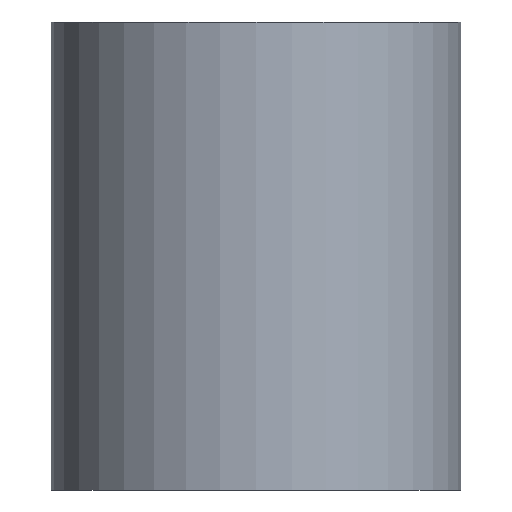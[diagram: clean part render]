
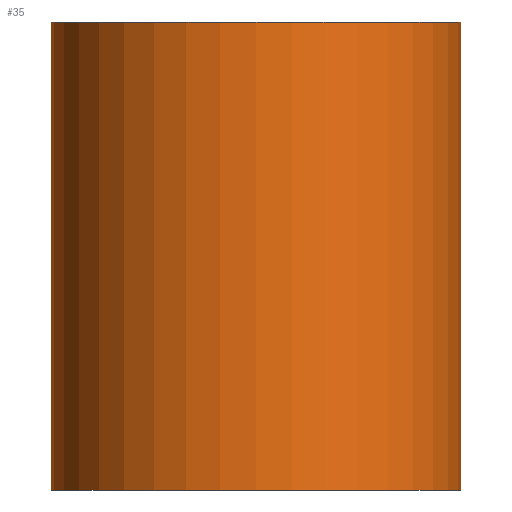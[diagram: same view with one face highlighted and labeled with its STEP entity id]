
A CAD part, front view. The second image highlights one B-rep face of the part: STEP entity #35.
In plain terms, the highlighted cylindrical face has radius 1.75 mm (diameter 3.5 mm), a full revolution.
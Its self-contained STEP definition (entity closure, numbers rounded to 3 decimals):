
#35 = ADVANCED_FACE('',(#36),#49,.T.);
#36 = FACE_BOUND('',#37,.T.);
#37 = EDGE_LOOP('',(#38,#72,#95,#122));
#38 = ORIENTED_EDGE('',*,*,#39,.F.);
#39 = EDGE_CURVE('',#40,#40,#42,.T.);
#40 = VERTEX_POINT('',#41);
#41 = CARTESIAN_POINT('',(1.75,0.,2.));
#42 = SURFACE_CURVE('',#43,(#48,#60),.PCURVE_S1.);
#43 = CIRCLE('',#44,1.75);
#44 = AXIS2_PLACEMENT_3D('',#45,#46,#47);
#45 = CARTESIAN_POINT('',(0.,0.,2.));
#46 = DIRECTION('',(0.,0.,1.));
#47 = DIRECTION('',(1.,0.,-0.));
#48 = PCURVE('',#49,#54);
#49 = CYLINDRICAL_SURFACE('',#50,1.75);
#50 = AXIS2_PLACEMENT_3D('',#51,#52,#53);
#51 = CARTESIAN_POINT('',(0.,0.,-2.));
#52 = DIRECTION('',(0.,0.,1.));
#53 = DIRECTION('',(1.,0.,-0.));
#54 = DEFINITIONAL_REPRESENTATION('',(#55),#59);
#55 = LINE('',#56,#57);
#56 = CARTESIAN_POINT('',(0.,4.));
#57 = VECTOR('',#58,1.);
#58 = DIRECTION('',(1.,0.));
#59 = ( GEOMETRIC_REPRESENTATION_CONTEXT(2) 
PARAMETRIC_REPRESENTATION_CONTEXT() REPRESENTATION_CONTEXT('2D SPACE',''
  ) );
#60 = PCURVE('',#61,#66);
#61 = PLANE('',#62);
#62 = AXIS2_PLACEMENT_3D('',#63,#64,#65);
#63 = CARTESIAN_POINT('',(0.,0.,2.));
#64 = DIRECTION('',(0.,0.,1.));
#65 = DIRECTION('',(1.,0.,-0.));
#66 = DEFINITIONAL_REPRESENTATION('',(#67),#71);
#67 = CIRCLE('',#68,1.75);
#68 = AXIS2_PLACEMENT_2D('',#69,#70);
#69 = CARTESIAN_POINT('',(0.,0.));
#70 = DIRECTION('',(1.,0.));
#71 = ( GEOMETRIC_REPRESENTATION_CONTEXT(2) 
PARAMETRIC_REPRESENTATION_CONTEXT() REPRESENTATION_CONTEXT('2D SPACE',''
  ) );
#72 = ORIENTED_EDGE('',*,*,#73,.F.);
#73 = EDGE_CURVE('',#74,#40,#76,.T.);
#74 = VERTEX_POINT('',#75);
#75 = CARTESIAN_POINT('',(1.75,0.,-2.));
#76 = SEAM_CURVE('',#77,(#81,#88),.PCURVE_S1.);
#77 = LINE('',#78,#79);
#78 = CARTESIAN_POINT('',(1.75,0.,-2.));
#79 = VECTOR('',#80,1.);
#80 = DIRECTION('',(0.,0.,1.));
#81 = PCURVE('',#49,#82);
#82 = DEFINITIONAL_REPRESENTATION('',(#83),#87);
#83 = LINE('',#84,#85);
#84 = CARTESIAN_POINT('',(6.283,-0.));
#85 = VECTOR('',#86,1.);
#86 = DIRECTION('',(0.,1.));
#87 = ( GEOMETRIC_REPRESENTATION_CONTEXT(2) 
PARAMETRIC_REPRESENTATION_CONTEXT() REPRESENTATION_CONTEXT('2D SPACE',''
  ) );
#88 = PCURVE('',#49,#89);
#89 = DEFINITIONAL_REPRESENTATION('',(#90),#94);
#90 = LINE('',#91,#92);
#91 = CARTESIAN_POINT('',(0.,-0.));
#92 = VECTOR('',#93,1.);
#93 = DIRECTION('',(0.,1.));
#94 = ( GEOMETRIC_REPRESENTATION_CONTEXT(2) 
PARAMETRIC_REPRESENTATION_CONTEXT() REPRESENTATION_CONTEXT('2D SPACE',''
  ) );
#95 = ORIENTED_EDGE('',*,*,#96,.T.);
#96 = EDGE_CURVE('',#74,#74,#97,.T.);
#97 = SURFACE_CURVE('',#98,(#103,#110),.PCURVE_S1.);
#98 = CIRCLE('',#99,1.75);
#99 = AXIS2_PLACEMENT_3D('',#100,#101,#102);
#100 = CARTESIAN_POINT('',(0.,0.,-2.));
#101 = DIRECTION('',(0.,0.,1.));
#102 = DIRECTION('',(1.,0.,-0.));
#103 = PCURVE('',#49,#104);
#104 = DEFINITIONAL_REPRESENTATION('',(#105),#109);
#105 = LINE('',#106,#107);
#106 = CARTESIAN_POINT('',(0.,0.));
#107 = VECTOR('',#108,1.);
#108 = DIRECTION('',(1.,0.));
#109 = ( GEOMETRIC_REPRESENTATION_CONTEXT(2) 
PARAMETRIC_REPRESENTATION_CONTEXT() REPRESENTATION_CONTEXT('2D SPACE',''
  ) );
#110 = PCURVE('',#111,#116);
#111 = PLANE('',#112);
#112 = AXIS2_PLACEMENT_3D('',#113,#114,#115);
#113 = CARTESIAN_POINT('',(0.,0.,-2.));
#114 = DIRECTION('',(0.,0.,1.));
#115 = DIRECTION('',(1.,0.,-0.));
#116 = DEFINITIONAL_REPRESENTATION('',(#117),#121);
#117 = CIRCLE('',#118,1.75);
#118 = AXIS2_PLACEMENT_2D('',#119,#120);
#119 = CARTESIAN_POINT('',(0.,0.));
#120 = DIRECTION('',(1.,0.));
#121 = ( GEOMETRIC_REPRESENTATION_CONTEXT(2) 
PARAMETRIC_REPRESENTATION_CONTEXT() REPRESENTATION_CONTEXT('2D SPACE',''
  ) );
#122 = ORIENTED_EDGE('',*,*,#73,.T.);
